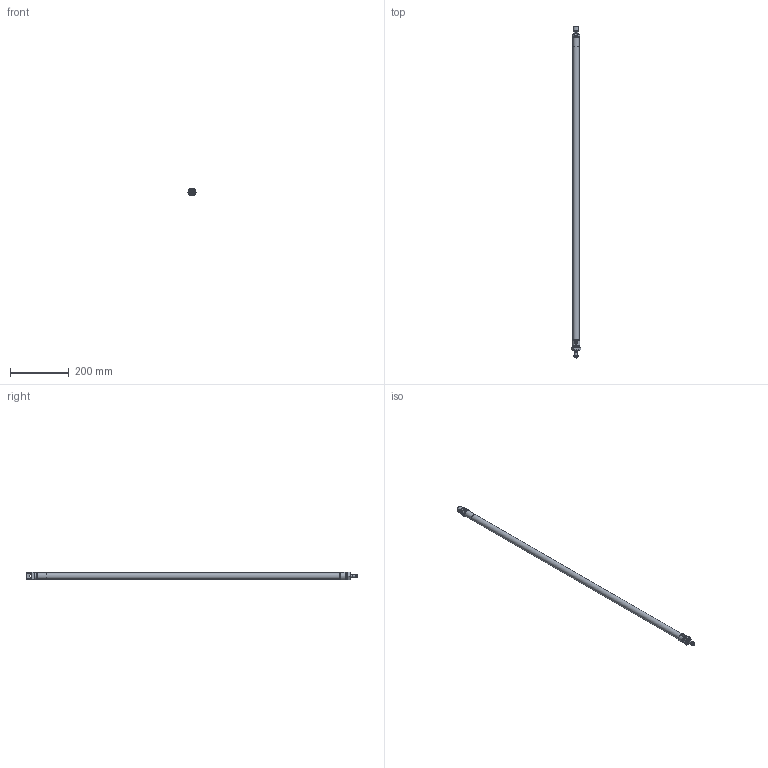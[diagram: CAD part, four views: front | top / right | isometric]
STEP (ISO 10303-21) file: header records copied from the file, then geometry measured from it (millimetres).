
FILE_DESCRIPTION(/* description */ ('Unknown'),/* implementation_level */ '2;1');
FILE_NAME(/* name */ 'RIM 20_1000',/* time_stamp */ '2024-08-27T09:11:14+02:00',/* author */ ('Unknown'),/* organization */ ('Unknown'),/* preprocessor_version */ 'ST-DEVELOPER v16.7',/* originating_system */ 'Solid Edge',/* authorisation */ 'Unknown');
FILE_SCHEMA (('AUTOMOTIVE_DESIGN {1 0 10303 214 3 1 1}'));
Length unit declared in the file: millimetre
Products named in the file (7): RIM 20_1000; Kit_2; Profilrohr; Kolbenstange; Kit_1; Mutter_1; Mutter_2
Assembly tree (6 placements, depth 2):
  RIM 20_1000
    Kit_2
    Profilrohr
    Kolbenstange
    Kit_1
    Mutter_1
    Mutter_2
Bounding box: 31.18 x 1131 x 27 mm (x, y, z)
Volume: 137248.1 mm3; surface area: 175083.4 mm2
Topology: 6 solids, 6 shells, 136 faces, 290 edges, 182 vertices
Faces by surface type: plane 55, cone 42, cylinder 32, torus 7
Full cylindrical faces by diameter (mm): 6.647 x1, 8 x3, 8.5 x1, 8.56 x2, 8.566 x2, 9.1 x1, 12 x1, 12.1 x1, 14.1 x1, 14.2 x1, 19.7 x1, 20 x2, 20.376 x1, 21.27 x1, 22 x2, 22.2 x2
Entity records: 4346 total; most frequent: CARTESIAN_POINT 664, DIRECTION 578, ORIENTED_EDGE 448, AXIS2_PLACEMENT_3D 259, EDGE_CURVE 224, FACE_BOUND 215, EDGE_LOOP 214, VERTEX_POINT 171
